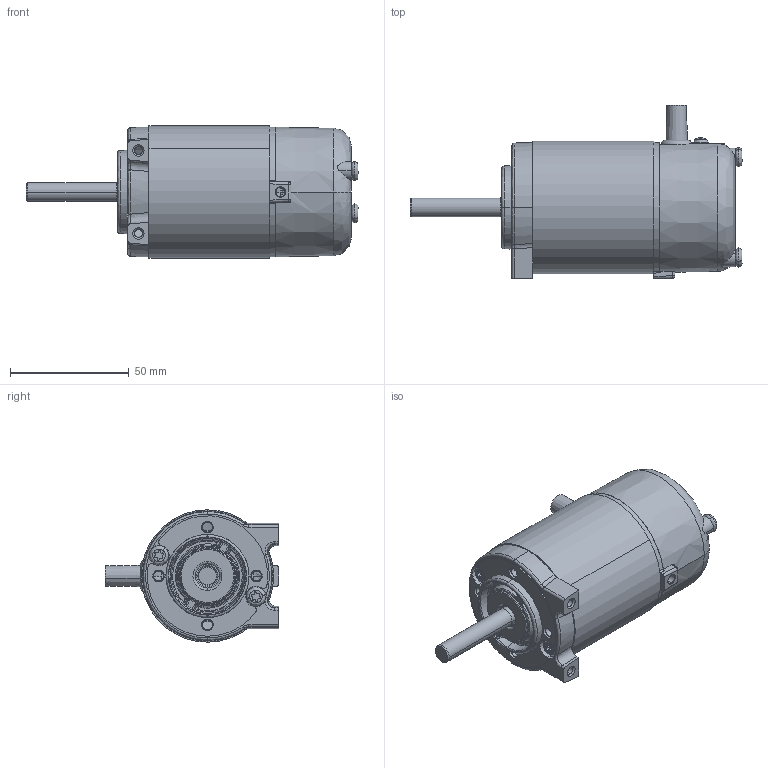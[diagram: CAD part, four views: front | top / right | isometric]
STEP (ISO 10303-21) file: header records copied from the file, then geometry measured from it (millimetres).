
FILE_DESCRIPTION (( 'STEP AP214' ), '1' );
FILE_NAME ('PM8.STEP', '2021-07-05T08:37:04', ( '' ), ( '' ), 'SwSTEP 2.0', 'SolidWorks 2020', '' );
FILE_SCHEMA (( 'AUTOMOTIVE_DESIGN' ));
Length unit declared in the file: inch
Products named in the file (1): PM8
Bounding box: 140.08 x 73.05 x 55.87 mm (x, y, z)
Surface area: 30005.5 mm2 (no closed solid volume)
Topology: 0 solids, 18 shells, 376 faces, 1373 edges, 969 vertices
Faces by surface type: cylinder 107, bspline 89, cone 83, plane 77, torus 18, sphere 2
Entity records: 25494 total; most frequent: CARTESIAN_POINT 9771, ORIENTED_EDGE 2158, DIRECTION 2089, EDGE_CURVE 1365, VERTEX_POINT 969, AXIS2_PLACEMENT_3D 760, VECTOR 569, LINE 569
